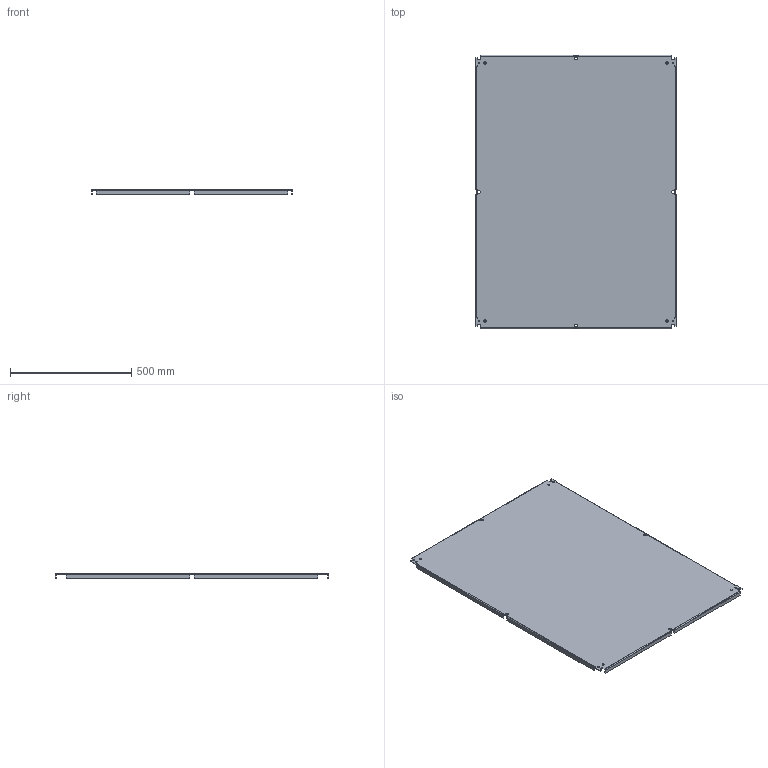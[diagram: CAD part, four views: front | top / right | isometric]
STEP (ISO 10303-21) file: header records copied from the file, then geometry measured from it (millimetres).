
FILE_DESCRIPTION (( 'STEP AP203' ), '1' );
FILE_NAME ('ep12090al.STEP', '2013-09-11T16:29:18', ( 'User' ), ( 'Pentair Inc' ), 'SwSTEP 2.0', 'SolidWorks 2010', '' );
FILE_SCHEMA (( 'CONFIG_CONTROL_DESIGN' ));
Length unit declared in the file: inch
Products named in the file (2): 87554479; ep12090al
Assembly tree (1 placements, depth 2):
  ep12090al
    87554479
Bounding box: 826.08 x 1126.08 x 19.05 mm (x, y, z)
Volume: 3114015.1 mm3; surface area: 1976185.4 mm2
Topology: 1 solids, 1 shells, 222 faces, 576 edges, 368 vertices
Faces by surface type: plane 170, cylinder 52
Entity records: 6912 total; most frequent: CARTESIAN_POINT 1170, ORIENTED_EDGE 1152, DIRECTION 1132, EDGE_CURVE 576, LINE 472, VECTOR 472, VERTEX_POINT 368, AXIS2_PLACEMENT_3D 330
